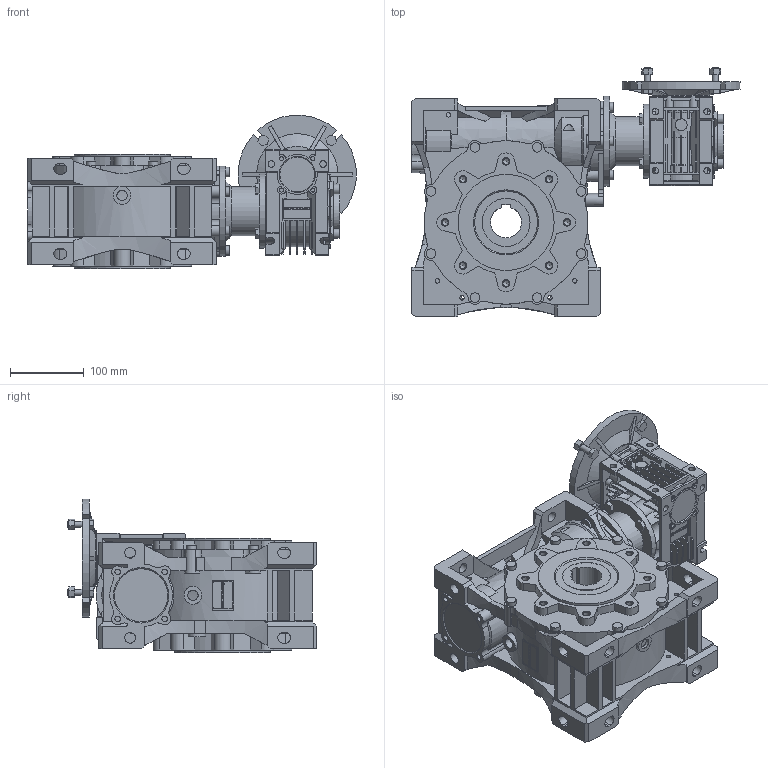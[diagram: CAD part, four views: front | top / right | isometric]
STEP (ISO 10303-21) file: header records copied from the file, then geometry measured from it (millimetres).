
FILE_DESCRIPTION(/* description */ ('STEP AP214'),/* implementation_level */ '2;1');
FILE_NAME(/* name */ 'NMRVP-NMRVP 050-110 100 (10x10) VS2 160x14 25 NO 42 NO NO - - NO - - - NO NO - --(--------)',/* time_stamp */ '2024-10-24T15:49:49+02:00',/* author */ ('License CC BY-ND 4.0'),/* organization */ ('CADENAS'),/* preprocessor_version */ 'ST-DEVELOPER v19.3',/* originating_system */ 'PARTsolutions',/* authorisation */ ' ');
FILE_SCHEMA (('AUTOMOTIVE_DESIGN {1 0 10303 214 3 1 1}'));
Length unit declared in the file: millimetre
Products named in the file (11): NMRVP-NMRVP 050-110 100 (10x10) VS2 160x14 25 NO 42 NO NO - - NO - - 
- NO NO - --(--------); W.110.01.M; 110-42 (155); W.110.14.28.M-p; 050-110-TRA; W.050.01.M; 050-25 (92); VB 050-14 (14)-p; 5071 B5; Corona 50-p; 110-65
Assembly tree (10 placements, depth 2):
  NMRVP-NMRVP 050-110 100 (10x10) VS2 160x14 25 NO 42 NO NO - - NO - - 
- NO NO - --(--------)
    W.110.01.M
    110-42 (155)
    W.110.14.28.M-p
    050-110-TRA
    W.050.01.M
    050-25 (92)
    VB 050-14 (14)-p
    5071 B5
    Corona 50-p
    110-65
Bounding box: 444.27 x 337.5 x 207.27 mm (x, y, z)
Volume: 8857375.4 mm3; surface area: 941075.6 mm2
Topology: 10 solids, 19 shells, 2221 faces, 5935 edges, 3903 vertices
Faces by surface type: plane 1326, cylinder 746, cone 144, torus 5
Full cylindrical faces by diameter (mm): 3.775 x3, 5.55 x4, 6 x10, 6.647 x8, 7.45 x12, 8 x8, 8.376 x16, 8.8 x8, 10 x14, 13 x18, 14 x8, 14.5 x2, 16 x1, 24 x2, 28 x2, 34 x1, 39 x1, 40 x2, 41 x1, 47 x2, 55 x2, 56 x1, 63 x1, 65 x3, 66 x1, 70 x3, 76 x1, 90 x3, 100 x2, 107 x1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
Entity records: 83877 total; most frequent: CARTESIAN_POINT 13155, DIRECTION 11538, ORIENTED_EDGE 11310, EDGE_CURVE 5655, AXIS2_PLACEMENT_3D 4044, VERTEX_POINT 3861, LINE 3450, VECTOR 3450
